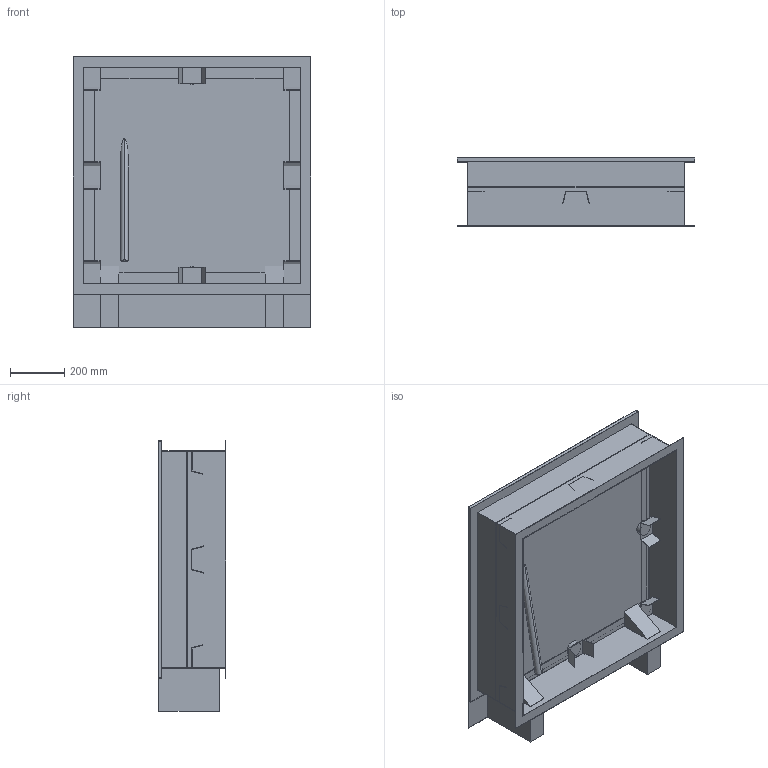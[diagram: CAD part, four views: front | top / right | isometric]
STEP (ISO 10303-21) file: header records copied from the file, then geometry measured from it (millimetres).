
FILE_DESCRIPTION((''),'2;1');
FILE_NAME('52114885','2024-06-24T09:31:57',('hrl'),('HUBER SE'),'CREO PARAMETRIC BY PTC INC, 2022162','CREO PARAMETRIC BY PTC INC, 2022162','');
FILE_SCHEMA(('AUTOMOTIVE_DESIGN { 1 0 10303 214 1 1 1 1 }'));
Length unit declared in the file: millimetre
Products named in the file (1): 52114885
Bounding box: 878 x 250 x 1000 mm (x, y, z)
Volume: 72710665.7 mm3; surface area: 4555405.9 mm2
Topology: 1 solids, 1 shells, 238 faces, 650 edges, 416 vertices
Faces by surface type: plane 178, cylinder 60
Entity records: 8258 total; most frequent: CARTESIAN_POINT 1366, ORIENTED_EDGE 1300, DIRECTION 1280, EDGE_CURVE 650, VECTOR 492, LINE 492, VERTEX_POINT 416, AXIS2_PLACEMENT_3D 394
